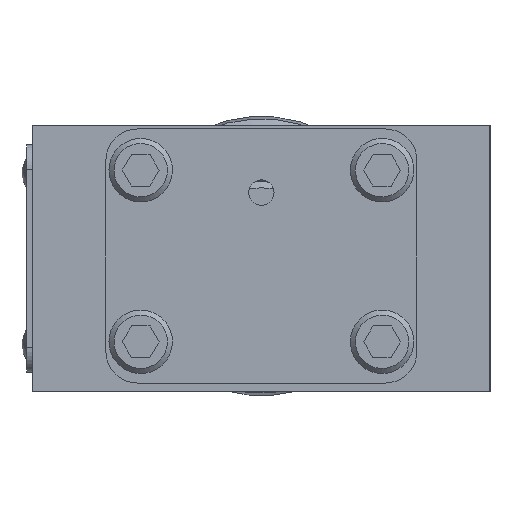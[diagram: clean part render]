
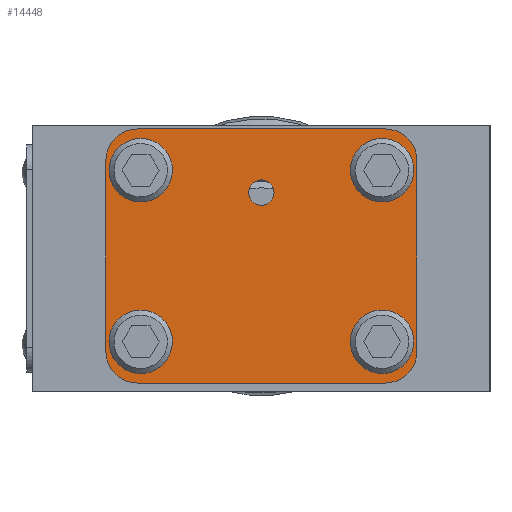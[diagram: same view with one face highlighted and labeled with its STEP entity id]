
A CAD part, left-side view. The second image highlights one B-rep face of the part: STEP entity #14448.
In plain terms, the highlighted planar face has unit normal (-1, 0, 0).
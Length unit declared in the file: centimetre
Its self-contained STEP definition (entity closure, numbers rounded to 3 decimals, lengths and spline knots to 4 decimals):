
#1642=FACE_BOUND('',#3236,.T.);
#1643=FACE_BOUND('',#3237,.T.);
#1644=FACE_BOUND('',#3238,.T.);
#1645=FACE_BOUND('',#3239,.T.);
#1646=FACE_BOUND('',#3240,.T.);
#1810=PLANE('',#15595);
#2286=FACE_OUTER_BOUND('',#3235,.T.);
#3235=EDGE_LOOP('',(#10893,#10894,#10895,#10896,#10897,#10898,#10899,#10900));
#3236=EDGE_LOOP('',(#10901));
#3237=EDGE_LOOP('',(#10902));
#3238=EDGE_LOOP('',(#10903));
#3239=EDGE_LOOP('',(#10904));
#3240=EDGE_LOOP('',(#10905));
#4242=LINE('',#22436,#5172);
#4243=LINE('',#22440,#5173);
#4244=LINE('',#22444,#5174);
#4245=LINE('',#22447,#5175);
#5172=VECTOR('',#17906,1.);
#5173=VECTOR('',#17909,1.);
#5174=VECTOR('',#17912,1.);
#5175=VECTOR('',#17915,1.);
#6065=CIRCLE('',#15596,0.3962);
#6066=CIRCLE('',#15597,0.3962);
#6067=CIRCLE('',#15598,0.3962);
#6068=CIRCLE('',#15599,0.3962);
#6069=CIRCLE('',#15600,0.3969);
#6070=CIRCLE('',#15601,0.3969);
#6071=CIRCLE('',#15602,0.3969);
#6072=CIRCLE('',#15603,0.3969);
#6073=CIRCLE('',#15604,0.1588);
#6944=VERTEX_POINT('',#22432);
#6945=VERTEX_POINT('',#22433);
#6946=VERTEX_POINT('',#22435);
#6947=VERTEX_POINT('',#22437);
#6948=VERTEX_POINT('',#22439);
#6949=VERTEX_POINT('',#22441);
#6950=VERTEX_POINT('',#22443);
#6951=VERTEX_POINT('',#22445);
#6952=VERTEX_POINT('',#22448);
#6953=VERTEX_POINT('',#22450);
#6954=VERTEX_POINT('',#22452);
#6955=VERTEX_POINT('',#22454);
#6956=VERTEX_POINT('',#22456);
#8407=EDGE_CURVE('',#6944,#6945,#6065,.T.);
#8408=EDGE_CURVE('',#6946,#6944,#4242,.T.);
#8409=EDGE_CURVE('',#6947,#6946,#6066,.T.);
#8410=EDGE_CURVE('',#6948,#6947,#4243,.T.);
#8411=EDGE_CURVE('',#6949,#6948,#6067,.T.);
#8412=EDGE_CURVE('',#6950,#6949,#4244,.T.);
#8413=EDGE_CURVE('',#6951,#6950,#6068,.T.);
#8414=EDGE_CURVE('',#6945,#6951,#4245,.T.);
#8415=EDGE_CURVE('',#6952,#6952,#6069,.T.);
#8416=EDGE_CURVE('',#6953,#6953,#6070,.T.);
#8417=EDGE_CURVE('',#6954,#6954,#6071,.T.);
#8418=EDGE_CURVE('',#6955,#6955,#6072,.T.);
#8419=EDGE_CURVE('',#6956,#6956,#6073,.T.);
#10893=ORIENTED_EDGE('',*,*,#8407,.F.);
#10894=ORIENTED_EDGE('',*,*,#8408,.F.);
#10895=ORIENTED_EDGE('',*,*,#8409,.F.);
#10896=ORIENTED_EDGE('',*,*,#8410,.F.);
#10897=ORIENTED_EDGE('',*,*,#8411,.F.);
#10898=ORIENTED_EDGE('',*,*,#8412,.F.);
#10899=ORIENTED_EDGE('',*,*,#8413,.F.);
#10900=ORIENTED_EDGE('',*,*,#8414,.F.);
#10901=ORIENTED_EDGE('',*,*,#8415,.T.);
#10902=ORIENTED_EDGE('',*,*,#8416,.T.);
#10903=ORIENTED_EDGE('',*,*,#8417,.T.);
#10904=ORIENTED_EDGE('',*,*,#8418,.T.);
#10905=ORIENTED_EDGE('',*,*,#8419,.T.);
#14448=ADVANCED_FACE('',(#2286,#1642,#1643,#1644,#1645,#1646),#1810,.T.);
#15595=AXIS2_PLACEMENT_3D('',#22431,#17902,#17903);
#15596=AXIS2_PLACEMENT_3D('',#22434,#17904,#17905);
#15597=AXIS2_PLACEMENT_3D('',#22438,#17907,#17908);
#15598=AXIS2_PLACEMENT_3D('',#22442,#17910,#17911);
#15599=AXIS2_PLACEMENT_3D('',#22446,#17913,#17914);
#15600=AXIS2_PLACEMENT_3D('',#22449,#17916,#17917);
#15601=AXIS2_PLACEMENT_3D('',#22451,#17918,#17919);
#15602=AXIS2_PLACEMENT_3D('',#22453,#17920,#17921);
#15603=AXIS2_PLACEMENT_3D('',#22455,#17922,#17923);
#15604=AXIS2_PLACEMENT_3D('',#22457,#17924,#17925);
#17902=DIRECTION('center_axis',(-1.,0.,0.));
#17903=DIRECTION('ref_axis',(0.,1.,0.));
#17904=DIRECTION('center_axis',(1.,0.,0.));
#17905=DIRECTION('ref_axis',(0.,0.707,0.707));
#17906=DIRECTION('',(0.,0.,1.));
#17907=DIRECTION('center_axis',(1.,0.,0.));
#17908=DIRECTION('ref_axis',(0.,0.707,-0.707));
#17909=DIRECTION('',(0.,1.,0.));
#17910=DIRECTION('center_axis',(1.,0.,0.));
#17911=DIRECTION('ref_axis',(0.,-0.707,-0.707));
#17912=DIRECTION('',(0.,0.,-1.));
#17913=DIRECTION('center_axis',(1.,0.,0.));
#17914=DIRECTION('ref_axis',(0.,-0.707,0.707));
#17915=DIRECTION('',(0.,-1.,0.));
#17916=DIRECTION('center_axis',(1.,0.,0.));
#17917=DIRECTION('ref_axis',(0.,0.013,-1.));
#17918=DIRECTION('center_axis',(1.,0.,0.));
#17919=DIRECTION('ref_axis',(0.,0.013,-1.));
#17920=DIRECTION('center_axis',(1.,0.,0.));
#17921=DIRECTION('ref_axis',(0.,0.013,-1.));
#17922=DIRECTION('center_axis',(1.,0.,0.));
#17923=DIRECTION('ref_axis',(0.,0.013,-1.));
#17924=DIRECTION('center_axis',(1.,0.,0.));
#17925=DIRECTION('ref_axis',(0.,-1.,0.));
#22431=CARTESIAN_POINT('Origin',(-5.0089,0.,0.0305));
#22432=CARTESIAN_POINT('',(-5.0089,1.9444,1.2217));
#22433=CARTESIAN_POINT('',(-5.0089,1.5481,1.618));
#22434=CARTESIAN_POINT('Origin',(-5.0089,1.5481,1.2217));
#22435=CARTESIAN_POINT('',(-5.0089,1.9444,-1.1608));
#22436=CARTESIAN_POINT('',(-5.0089,1.9444,-1.557));
#22437=CARTESIAN_POINT('',(-5.0089,1.5481,-1.557));
#22438=CARTESIAN_POINT('Origin',(-5.0089,1.5481,-1.1608));
#22439=CARTESIAN_POINT('',(-5.0089,-1.5481,-1.557));
#22440=CARTESIAN_POINT('',(-5.0089,-1.9444,-1.557));
#22441=CARTESIAN_POINT('',(-5.0089,-1.9444,-1.1608));
#22442=CARTESIAN_POINT('Origin',(-5.0089,-1.5481,-1.1608));
#22443=CARTESIAN_POINT('',(-5.0089,-1.9444,1.2217));
#22444=CARTESIAN_POINT('',(-5.0089,-1.9444,1.618));
#22445=CARTESIAN_POINT('',(-5.0089,-1.5481,1.618));
#22446=CARTESIAN_POINT('Origin',(-5.0089,-1.5481,1.2217));
#22447=CARTESIAN_POINT('',(-5.0089,1.9444,1.618));
#22448=CARTESIAN_POINT('',(-5.0089,1.5038,-0.6446));
#22449=CARTESIAN_POINT('Origin',(-5.0089,1.5088,-1.0414));
#22450=CARTESIAN_POINT('',(-5.0089,-1.5138,-0.6446));
#22451=CARTESIAN_POINT('Origin',(-5.0089,-1.5088,-1.0414));
#22452=CARTESIAN_POINT('',(-5.0089,-1.5138,1.4992));
#22453=CARTESIAN_POINT('Origin',(-5.0089,-1.5088,1.1024));
#22454=CARTESIAN_POINT('',(-5.0089,1.5038,1.4992));
#22455=CARTESIAN_POINT('Origin',(-5.0089,1.5088,1.1024));
#22456=CARTESIAN_POINT('',(-5.0089,0.1588,0.823));
#22457=CARTESIAN_POINT('Origin',(-5.0089,0.,0.823));
